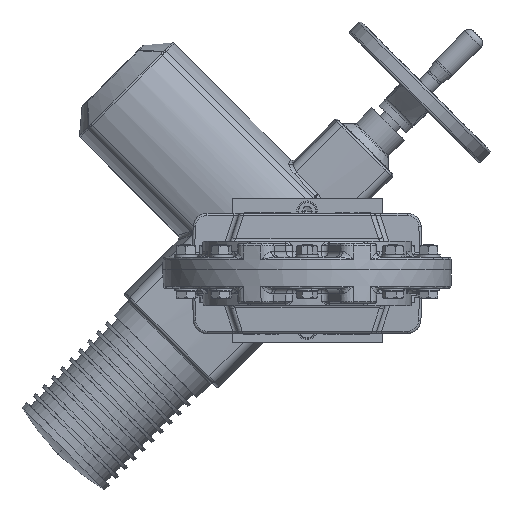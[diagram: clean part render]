
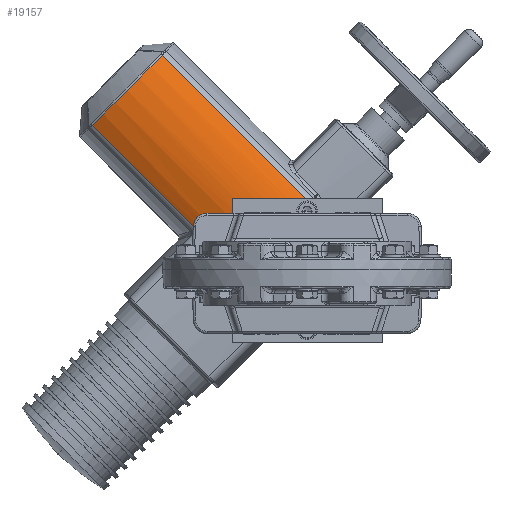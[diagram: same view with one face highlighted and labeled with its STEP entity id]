
A CAD part, front view. The second image highlights one B-rep face of the part: STEP entity #19157.
In plain terms, the highlighted cylindrical face has radius 100 mm (diameter 200 mm), a partial arc.
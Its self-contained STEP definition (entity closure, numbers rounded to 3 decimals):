
#1322 = CARTESIAN_POINT ( 'NONE',  ( -95.942, 483.737, 34.823 ) ) ;
#1809 = CARTESIAN_POINT ( 'NONE',  ( -85.399, 479.8, 37.68 ) ) ;
#1900 = VERTEX_POINT ( 'NONE', #14814 ) ;
#2513 = CARTESIAN_POINT ( 'NONE',  ( -186.2, 483.737, 125.081 ) ) ;
#3321 = VERTEX_POINT ( 'NONE', #8454 ) ;
#6153 = CARTESIAN_POINT ( 'NONE',  ( -4.467, 482.419, 61.018 ) ) ;
#6813 = FACE_OUTER_BOUND ( 'NONE', #91531, .T. ) ;
#7137 = CARTESIAN_POINT ( 'NONE',  ( -51.524, 474.52, 36.506 ) ) ;
#7614 = CARTESIAN_POINT ( 'NONE',  ( -27.144, 476.131, 55.972 ) ) ;
#8454 = CARTESIAN_POINT ( 'NONE',  ( -83.125, 479.28, 37.53 ) ) ;
#13231 = CARTESIAN_POINT ( 'NONE',  ( -83.7, 479.393, 37.633 ) ) ;
#13462 = DIRECTION ( 'NONE',  ( 0.707, 0., -0.707 ) ) ;
#13739 = CARTESIAN_POINT ( 'NONE',  ( -6.757, 481.416, 59.952 ) ) ;
#14814 = CARTESIAN_POINT ( 'NONE',  ( -0.992, 483.737, 61.611 ) ) ;
#15298 = ORIENTED_EDGE ( 'NONE', *, *, #129597, .T. ) ;
#17649 = CARTESIAN_POINT ( 'NONE',  ( -2.023, 483.381, 61.588 ) ) ;
#18639 = CARTESIAN_POINT ( 'NONE',  ( -48.77, 474.161, 40.326 ) ) ;
#18917 = B_SPLINE_CURVE_WITH_KNOTS ( 'NONE', 3,
 ( #131355, #52376, #7137, #86518, #18639, #97831, #30002, #109193, #41376, #120522, #52851, #131849, #64205, #143252, #75604, #7614, #86999, #19137, #98328, #30487, #109683, #41899, #121010, #53330, #132325, #64706 ),
 .UNSPECIFIED., .F., .F.,
 ( 4, 2, 2, 2, 2, 2, 2, 2, 2, 2, 2, 2, 4 ),
 ( 0., 0.007, 0.011, 0.014, 0.021, 0.025, 0.028, 0.035, 0.039, 0.041, 0.042, 0.05, 0.057 ),
 .UNSPECIFIED. ) ;
#19137 = CARTESIAN_POINT ( 'NONE',  ( -24.403, 476.713, 56.882 ) ) ;
#19157 = ADVANCED_FACE ( 'NONE', ( #6813 ), #113127, .T. ) ;
#22886 = VERTEX_POINT ( 'NONE', #54669 ) ;
#24192 = CARTESIAN_POINT ( 'NONE',  ( -94.963, 483.26, 35.256 ) ) ;
#28158 = CARTESIAN_POINT ( 'NONE',  ( -198.726, 483.737, 137.607 ) ) ;
#30002 = CARTESIAN_POINT ( 'NONE',  ( -46.47, 474.018, 43.048 ) ) ;
#30487 = CARTESIAN_POINT ( 'NONE',  ( -22.733, 477.087, 57.36 ) ) ;
#31584 = EDGE_CURVE ( 'NONE', #111702, #3321, #131280, .T. ) ;
#32569 = AXIS2_PLACEMENT_3D ( 'NONE', #81392, #13462, #92788 ) ;
#33954 = EDGE_CURVE ( 'NONE', #144941, #111702, #54174, .T. ) ;
#37667 = ORIENTED_EDGE ( 'NONE', *, *, #31584, .T. ) ;
#41376 = CARTESIAN_POINT ( 'NONE',  ( -42.255, 474.04, 47.199 ) ) ;
#41620 = CARTESIAN_POINT ( 'NONE',  ( -137.857, 483.737, 198.476 ) ) ;
#41899 = CARTESIAN_POINT ( 'NONE',  ( -19.358, 477.874, 58.197 ) ) ;
#46998 = CARTESIAN_POINT ( 'NONE',  ( -91.919, 481.952, 36.383 ) ) ;
#49876 = ORIENTED_EDGE ( 'NONE', *, *, #33954, .T. ) ;
#50190 = DIRECTION ( 'NONE',  ( 0.707, 0., -0.707 ) ) ;
#50412 = CARTESIAN_POINT ( 'NONE',  ( -6.757, 481.416, 59.952 ) ) ;
#50426 = VECTOR ( 'NONE', #64928, 1000. ) ;
#51151 = CARTESIAN_POINT ( 'NONE',  ( -83.125, 479.28, 37.53 ) ) ;
#51386 = CARTESIAN_POINT ( 'NONE',  ( -6.757, 481.416, 59.952 ) ) ;
#51611 = CARTESIAN_POINT ( 'NONE',  ( -53.809, 475.126, 32.392 ) ) ;
#52376 = CARTESIAN_POINT ( 'NONE',  ( -52.738, 474.787, 34.494 ) ) ;
#52851 = CARTESIAN_POINT ( 'NONE',  ( -38.496, 474.343, 50.061 ) ) ;
#53330 = CARTESIAN_POINT ( 'NONE',  ( -12.559, 479.616, 59.109 ) ) ;
#54174 = LINE ( 'NONE', #28158, #140723 ) ;
#54669 = CARTESIAN_POINT ( 'NONE',  ( -125.331, 483.737, 185.95 ) ) ;
#57922 = CIRCLE ( 'NONE', #32569, 100. ) ;
#57958 = CARTESIAN_POINT ( 'NONE',  ( -7.986, 480.858, 59.207 ) ) ;
#58431 = CARTESIAN_POINT ( 'NONE',  ( -88.734, 480.787, 37.25 ) ) ;
#58475 = VERTEX_POINT ( 'NONE', #92544 ) ;
#58939 = CARTESIAN_POINT ( 'NONE',  ( -7.576, 481.041, 59.458 ) ) ;
#61119 = B_SPLINE_CURVE_WITH_KNOTS ( 'NONE', 3,
 ( #51151, #118830, #141516, #73871 ),
 .UNSPECIFIED., .F., .F.,
 ( 4, 4 ),
 ( 0., 0.03 ),
 .UNSPECIFIED. ) ;
#61592 = CARTESIAN_POINT ( 'NONE',  ( -168.291, 574., 168.041 ) ) ;
#61988 = EDGE_CURVE ( 'NONE', #22886, #1900, #76985, .T. ) ;
#63905 = EDGE_CURVE ( 'NONE', #58475, #99147, #81008, .T. ) ;
#64205 = CARTESIAN_POINT ( 'NONE',  ( -35.516, 474.695, 51.988 ) ) ;
#64706 = CARTESIAN_POINT ( 'NONE',  ( -7.986, 480.858, 59.207 ) ) ;
#64928 = DIRECTION ( 'NONE',  ( 0.707, 0., -0.707 ) ) ;
#65867 = CARTESIAN_POINT ( 'NONE',  ( -95.942, 483.737, 34.823 ) ) ;
#69775 = CARTESIAN_POINT ( 'NONE',  ( -85.959, 479.951, 37.646 ) ) ;
#70224 = ORIENTED_EDGE ( 'NONE', *, *, #146553, .T. ) ;
#73871 = CARTESIAN_POINT ( 'NONE',  ( -53.809, 475.126, 32.392 ) ) ;
#74121 = CARTESIAN_POINT ( 'NONE',  ( -4.944, 482.219, 60.847 ) ) ;
#75604 = CARTESIAN_POINT ( 'NONE',  ( -30.367, 475.499, 54.705 ) ) ;
#76985 = LINE ( 'NONE', #41620, #50426 ) ;
#81008 = B_SPLINE_CURVE_WITH_KNOTS ( 'NONE', 3,
 ( #57958, #58939, #81665, #13739 ),
 .UNSPECIFIED., .F., .F.,
 ( 4, 4 ),
 ( 0.008, 0.009 ),
 .UNSPECIFIED. ) ;
#81166 = CARTESIAN_POINT ( 'NONE',  ( -84.269, 479.521, 37.673 ) ) ;
#81392 = CARTESIAN_POINT ( 'NONE',  ( -155.765, 574., 155.515 ) ) ;
#81665 = CARTESIAN_POINT ( 'NONE',  ( -7.167, 481.227, 59.706 ) ) ;
#85520 = CARTESIAN_POINT ( 'NONE',  ( -3.019, 483.005, 61.434 ) ) ;
#86518 = CARTESIAN_POINT ( 'NONE',  ( -49.486, 474.236, 39.388 ) ) ;
#86999 = CARTESIAN_POINT ( 'NONE',  ( -26.056, 476.356, 56.358 ) ) ;
#87619 = ORIENTED_EDGE ( 'NONE', *, *, #129632, .T. ) ;
#91531 = EDGE_LOOP ( 'NONE', ( #49876, #37667, #70224, #87619, #145071, #15298, #122272, #124931 ) ) ;
#92544 = CARTESIAN_POINT ( 'NONE',  ( -7.986, 480.858, 59.207 ) ) ;
#92562 = CARTESIAN_POINT ( 'NONE',  ( -83.125, 479.28, 37.53 ) ) ;
#92788 = DIRECTION ( 'NONE',  ( 0.707, 0., 0.707 ) ) ;
#96009 = DIRECTION ( 'NONE',  ( 0.707, 0., -0.707 ) ) ;
#96894 = CARTESIAN_POINT ( 'NONE',  ( -0.992, 483.737, 61.611 ) ) ;
#97831 = CARTESIAN_POINT ( 'NONE',  ( -47.264, 474.052, 42.154 ) ) ;
#97848 = B_SPLINE_CURVE_WITH_KNOTS ( 'NONE', 3,
 ( #51386, #119074, #141744, #74121, #6153, #85520, #17649, #96894 ),
 .UNSPECIFIED., .F., .F.,
 ( 4, 2, 2, 4 ),
 ( 0., 0.002, 0.003, 0.007 ),
 .UNSPECIFIED. ) ;
#98328 = CARTESIAN_POINT ( 'NONE',  ( -23.848, 476.836, 57.047 ) ) ;
#99147 = VERTEX_POINT ( 'NONE', #50412 ) ;
#104406 = VERTEX_POINT ( 'NONE', #51611 ) ;
#107075 = DIRECTION ( 'NONE',  ( -0.707, 0., -0.707 ) ) ;
#109193 = CARTESIAN_POINT ( 'NONE',  ( -44.009, 473.981, 45.62 ) ) ;
#109683 = CARTESIAN_POINT ( 'NONE',  ( -22.171, 477.217, 57.508 ) ) ;
#111702 = VERTEX_POINT ( 'NONE', #65867 ) ;
#113127 = CYLINDRICAL_SURFACE ( 'NONE', #132634, 100. ) ;
#114758 = CARTESIAN_POINT ( 'NONE',  ( -93.963, 482.808, 35.657 ) ) ;
#118830 = CARTESIAN_POINT ( 'NONE',  ( -73.431, 477.376, 35.79 ) ) ;
#119074 = CARTESIAN_POINT ( 'NONE',  ( -6.322, 481.617, 60.213 ) ) ;
#120522 = CARTESIAN_POINT ( 'NONE',  ( -39.457, 474.252, 49.37 ) ) ;
#121010 = CARTESIAN_POINT ( 'NONE',  ( -17.098, 478.438, 58.595 ) ) ;
#122272 = ORIENTED_EDGE ( 'NONE', *, *, #61988, .F. ) ;
#124931 = ORIENTED_EDGE ( 'NONE', *, *, #144908, .T. ) ;
#126041 = CARTESIAN_POINT ( 'NONE',  ( -90.876, 481.548, 36.708 ) ) ;
#129597 = EDGE_CURVE ( 'NONE', #99147, #1900, #97848, .T. ) ;
#129632 = EDGE_CURVE ( 'NONE', #104406, #58475, #18917, .T. ) ;
#131280 = B_SPLINE_CURVE_WITH_KNOTS ( 'NONE', 3,
 ( #1322, #24192, #114758, #46998, #126041, #58431, #137405, #69775, #1809, #81166, #13231, #92562 ),
 .UNSPECIFIED., .F., .F.,
 ( 4, 2, 2, 2, 2, 4 ),
 ( 0., 0.003, 0.007, 0.01, 0.012, 0.014 ),
 .UNSPECIFIED. ) ;
#131355 = CARTESIAN_POINT ( 'NONE',  ( -53.809, 475.126, 32.392 ) ) ;
#131849 = CARTESIAN_POINT ( 'NONE',  ( -36.519, 474.565, 51.374 ) ) ;
#132325 = CARTESIAN_POINT ( 'NONE',  ( -10.279, 480.23, 59.226 ) ) ;
#132634 = AXIS2_PLACEMENT_3D ( 'NONE', #61592, #50190, #107075 ) ;
#137405 = CARTESIAN_POINT ( 'NONE',  ( -87.629, 480.43, 37.469 ) ) ;
#140723 = VECTOR ( 'NONE', #96009, 1000. ) ;
#141516 = CARTESIAN_POINT ( 'NONE',  ( -63.657, 475.999, 34.087 ) ) ;
#141744 = CARTESIAN_POINT ( 'NONE',  ( -5.873, 481.818, 60.444 ) ) ;
#143252 = CARTESIAN_POINT ( 'NONE',  ( -32.461, 475.137, 53.713 ) ) ;
#144908 = EDGE_CURVE ( 'NONE', #22886, #144941, #57922, .T. ) ;
#144941 = VERTEX_POINT ( 'NONE', #2513 ) ;
#145071 = ORIENTED_EDGE ( 'NONE', *, *, #63905, .T. ) ;
#146553 = EDGE_CURVE ( 'NONE', #3321, #104406, #61119, .T. ) ;
